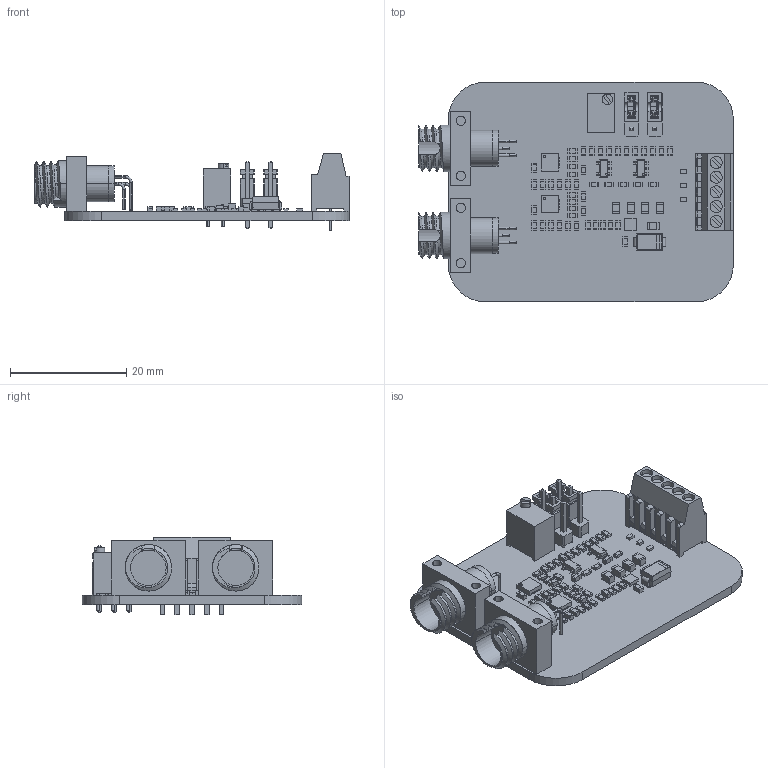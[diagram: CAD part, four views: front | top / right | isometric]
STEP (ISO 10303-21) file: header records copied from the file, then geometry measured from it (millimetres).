
FILE_DESCRIPTION(('Open CASCADE Model'),'2;1');
FILE_NAME('Open CASCADE Shape Model','2019-10-29T12:15:25',('Author'),( 'Open CASCADE'),'Open CASCADE STEP processor 6.8','Open CASCADE 6.8' ,'Unknown');
FILE_SCHEMA(('AUTOMOTIVE_DESIGN { 1 0 10303 214 1 1 1 1 }'));
Length unit declared in the file: millimetre
Products named in the file (120): PD10R
Assembly tree (272 placements, depth 4):
  PD10R
    PD10R
    PD10R
      PD10R
      PD10R
      PD10R
    PD10R
      PD10R
      PD10R
      PD10R
    PD10R
      PD10R
    PD10R
      PD10R
        PD10R
        PD10R
        PD10R
        PD10R
        PD10R
        PD10R
        PD10R
        PD10R
        PD10R
        PD10R
        PD10R
        PD10R
        PD10R
        PD10R
        PD10R
        PD10R
        PD10R
        PD10R
    PD10R
      PD10R
        PD10R
        PD10R
        PD10R
        PD10R
        PD10R
        PD10R
        PD10R
        PD10R
        PD10R
        PD10R
        PD10R
        PD10R
        PD10R
        PD10R
        PD10R
        PD10R
        PD10R
        PD10R
    PD10R
      PD10R
    PD10R
      PD10R
      PD10R
      PD10R
    PD10R
      PD10R
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Bounding box: 54.13 x 37.8 x 13.4 mm (x, y, z)
Volume: 5332.7 mm3; surface area: 8387.2 mm2
Topology: 222 solids, 271 shells, 2254 faces, 5313 edges, 3584 vertices
Faces by surface type: plane 1999, cylinder 223, bspline 20, torus 12
Full cylindrical faces by diameter (mm): 0.3 x4
Entity records: 37617 total; most frequent: CARTESIAN_POINT 6484, DIRECTION 4826, ORIENTED_EDGE 4396, EDGE_CURVE 2295, LINE 1914, VECTOR 1914, VERTEX_POINT 1568, AXIS2_PLACEMENT_3D 1456
